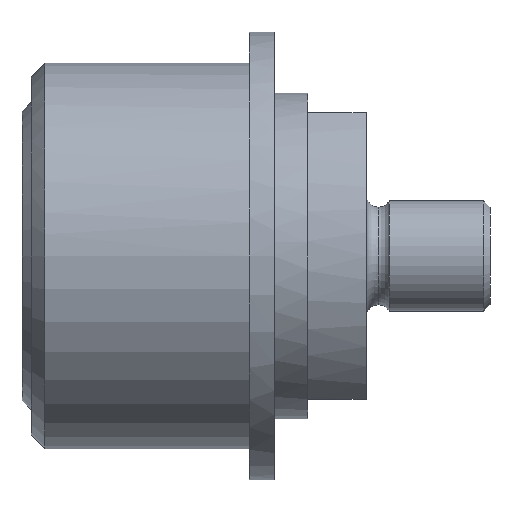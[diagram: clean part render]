
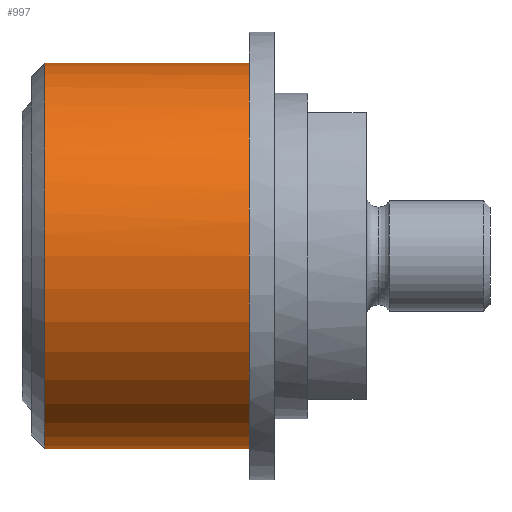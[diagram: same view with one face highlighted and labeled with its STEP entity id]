
A CAD part, front view. The second image highlights one B-rep face of the part: STEP entity #997.
In plain terms, the highlighted cylindrical face has radius 28 mm (diameter 56 mm), a partial arc.
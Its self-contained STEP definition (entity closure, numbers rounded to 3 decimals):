
#831=CARTESIAN_POINT('Vertex',(0.,0.,28.)) ;
#834=CARTESIAN_POINT('Axis2P3D Location',(0.,0.,0.)) ;
#838=CARTESIAN_POINT('Vertex',(0.,-28.,0.)) ;
#841=CARTESIAN_POINT('Axis2P3D Location',(0.,0.,0.)) ;
#845=CARTESIAN_POINT('Vertex',(0.,0.,-28.)) ;
#931=CARTESIAN_POINT('Line Origine',(35.,0.,-28.)) ;
#935=CARTESIAN_POINT('Vertex',(-29.697,0.,-28.)) ;
#952=CARTESIAN_POINT('Vertex',(-29.697,0.,28.)) ;
#955=CARTESIAN_POINT('Line Origine',(35.,0.,28.)) ;
#969=CARTESIAN_POINT('Axis2P3D Location',(35.,0.,0.)) ;
#975=CARTESIAN_POINT('Control Point',(-29.697,0.,28.)) ;
#976=CARTESIAN_POINT('Control Point',(-29.697,-8.796,28.)) ;
#977=CARTESIAN_POINT('Control Point',(-29.697,-17.601,24.556)) ;
#978=CARTESIAN_POINT('Control Point',(-29.697,-24.556,17.601)) ;
#979=CARTESIAN_POINT('Control Point',(-29.697,-28.,8.796)) ;
#980=CARTESIAN_POINT('Control Point',(-29.697,-28.,0.)) ;
#981=CARTESIAN_POINT('Vertex',(-29.697,-28.,0.)) ;
#984=CARTESIAN_POINT('Axis2P3D Location',(-29.697,0.,0.)) ;
#835=DIRECTION('Axis2P3D Direction',(1.,0.,-0.)) ;
#842=DIRECTION('Axis2P3D Direction',(1.,0.,-0.)) ;
#932=DIRECTION('Vector Direction',(-1.,0.,0.)) ;
#956=DIRECTION('Vector Direction',(-1.,0.,0.)) ;
#970=DIRECTION('Axis2P3D Direction',(-1.,-0.,-0.)) ;
#971=DIRECTION('Axis2P3D XDirection',(0.,0.,-1.)) ;
#985=DIRECTION('Axis2P3D Direction',(-1.,-0.,-0.)) ;
#836=AXIS2_PLACEMENT_3D('Circle Axis2P3D',#834,#835,$) ;
#843=AXIS2_PLACEMENT_3D('Circle Axis2P3D',#841,#842,$) ;
#972=AXIS2_PLACEMENT_3D('Cylinder Axis2P3D',#969,#970,#971) ;
#986=AXIS2_PLACEMENT_3D('Circle Axis2P3D',#984,#985,$) ;
#990=ORIENTED_EDGE('',*,*,#959,.T.) ;
#991=ORIENTED_EDGE('',*,*,#983,.T.) ;
#992=ORIENTED_EDGE('',*,*,#988,.T.) ;
#993=ORIENTED_EDGE('',*,*,#937,.T.) ;
#994=ORIENTED_EDGE('',*,*,#847,.F.) ;
#995=ORIENTED_EDGE('',*,*,#840,.F.) ;
#933=VECTOR('Line Direction',#932,1.) ;
#957=VECTOR('Line Direction',#956,1.) ;
#997=ADVANCED_FACE('AGS3412M16',(#996),#973,.T.) ;
#974=B_SPLINE_CURVE_WITH_KNOTS('',5,(#975,#976,#977,#978,#979,#980),.UNSPECIFIED.,.F.,.U.,(6,6),(-21.991,21.991),.UNSPECIFIED.) ;
#837=CIRCLE('generated circle',#836,28.) ;
#844=CIRCLE('generated circle',#843,28.) ;
#987=CIRCLE('generated circle',#986,28.) ;
#973=CYLINDRICAL_SURFACE('generated cylinder',#972,28.) ;
#840=EDGE_CURVE('',#832,#839,#837,.T.) ;
#847=EDGE_CURVE('',#839,#846,#844,.T.) ;
#937=EDGE_CURVE('',#936,#846,#934,.F.) ;
#959=EDGE_CURVE('',#832,#953,#958,.T.) ;
#983=EDGE_CURVE('',#953,#982,#974,.T.) ;
#988=EDGE_CURVE('',#982,#936,#987,.F.) ;
#989=EDGE_LOOP('',(#990,#991,#992,#993,#994,#995)) ;
#996=FACE_OUTER_BOUND('',#989,.T.) ;
#934=LINE('Line',#931,#933) ;
#958=LINE('Line',#955,#957) ;
#832=VERTEX_POINT('',#831) ;
#839=VERTEX_POINT('',#838) ;
#846=VERTEX_POINT('',#845) ;
#936=VERTEX_POINT('',#935) ;
#953=VERTEX_POINT('',#952) ;
#982=VERTEX_POINT('',#981) ;
